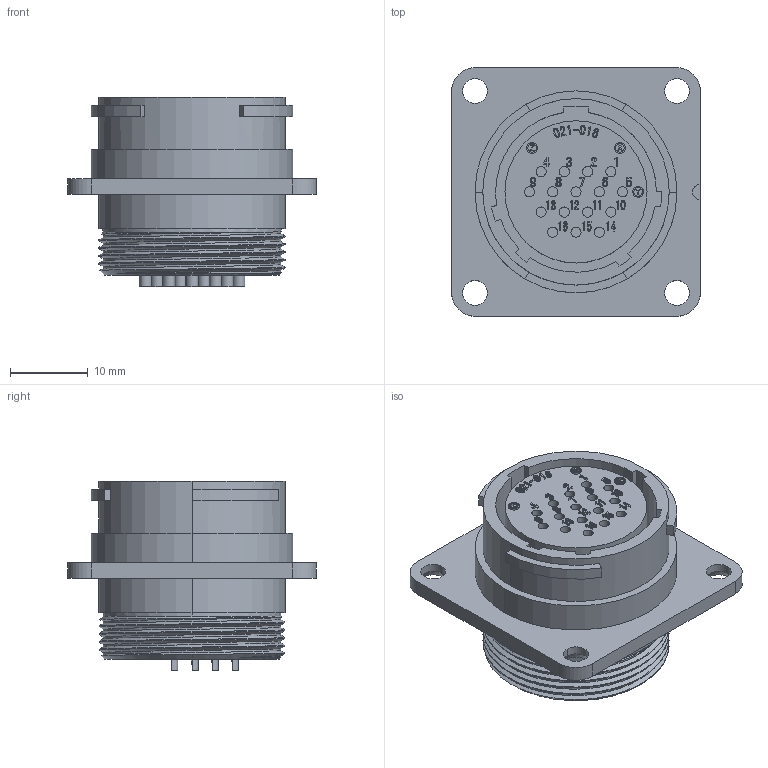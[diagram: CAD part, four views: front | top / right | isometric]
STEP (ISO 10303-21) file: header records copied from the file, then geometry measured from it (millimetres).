
FILE_DESCRIPTION (( 'STEP AP203' ), '1' );
FILE_NAME ('WEBR2116F-D.STEP', '2018-10-24T10:36:12', ( '' ), ( '' ), 'SwSTEP 2.0', 'SolidWorks 2018', '' );
FILE_SCHEMA (( 'CONFIG_CONTROL_DESIGN' ));
Length unit declared in the file: millimetre
Products named in the file (1): WEBR2116F-D
Bounding box: 32 x 32 x 24.4 mm (x, y, z)
Volume: 9555.1 mm3; surface area: 6631.6 mm2
Topology: 1 solids, 1 shells, 1373 faces, 3671 edges, 2395 vertices
Faces by surface type: bspline 578, plane 562, cylinder 188, cone 45
Entity records: 60293 total; most frequent: CARTESIAN_POINT 29980, ORIENTED_EDGE 7278, DIRECTION 4328, EDGE_CURVE 3639, VERTEX_POINT 2395, LINE 2106, VECTOR 2106, EDGE_LOOP 1508
